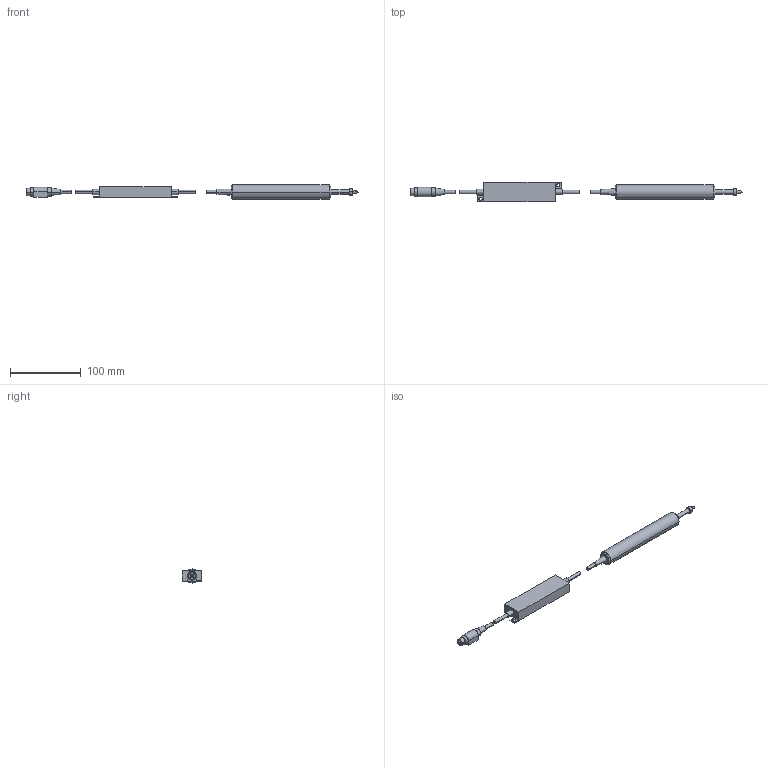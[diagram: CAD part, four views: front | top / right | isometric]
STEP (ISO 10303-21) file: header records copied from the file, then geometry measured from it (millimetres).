
FILE_DESCRIPTION(('STEP AP214'),'1');
FILE_NAME('burster_8738-dk25pr5_44hdo4ivjlhy4h9x7ykr5u8ql.stp','2017-04-21T13:00:13',('TraceParts'),('TraceParts S.A.'),'Spatial InterOp 3D',' ',' ');
FILE_SCHEMA(('automotive_design'));
Length unit declared in the file: millimetre
Products named in the file (5): burster_8738-dk25pr5_44hdo4ivjlhy4h9x7ykr5u8ql_1; burster_8738-dk25pr5_44hdo4ivjlhy4h9x7ykr5u8ql_2; burster_8738-dk25pr5_44hdo4ivjlhy4h9x7ykr5u8ql_3; burster_8738-dk25pr5_44hdo4ivjlhy4h9x7ykr5u8ql_4; burster_8738-dk25pr5_44hdo4ivjlhy4h9x7ykr5u8ql_5
Bounding box: 469.55 x 28 x 20 mm (x, y, z)
Volume: 96336.5 mm3; surface area: 24663 mm2
Topology: 5 solids, 5 shells, 120 faces, 260 edges, 159 vertices
Faces by surface type: cylinder 45, plane 39, cone 18, sphere 18
Entity records: 4286 total; most frequent: DIRECTION 636, CARTESIAN_POINT 528, ORIENTED_EDGE 488, AXIS2_PLACEMENT_3D 267, EDGE_CURVE 244, VERTEX_POINT 159, EDGE_LOOP 149, CIRCLE 142
